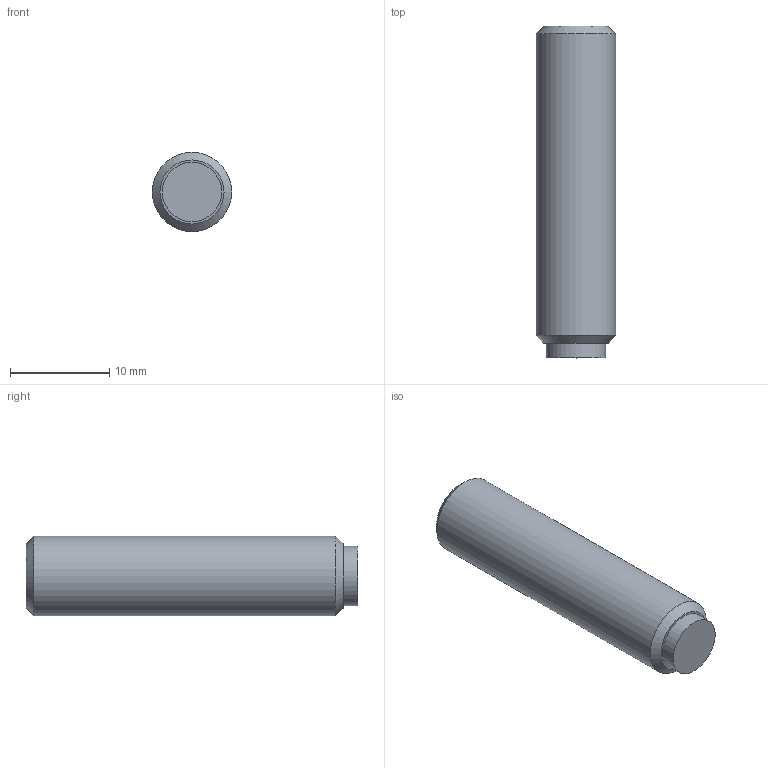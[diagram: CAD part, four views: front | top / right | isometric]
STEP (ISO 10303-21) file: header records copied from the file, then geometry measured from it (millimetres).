
FILE_DESCRIPTION( ( 'STEP AP203' ), '1' );
FILE_NAME( 'C:/Temp/Ganter_Step_05_03_2020/data/3_2/gn913_3/Grub screw GN 913.3-M8-32-MS.stp', '2020-03-13T05:35:50', ( 'License CC BY-ND 4.0' ), ( 'CADENAS' ), ' ', 'PARTsolutions', ' ' );
FILE_SCHEMA( ( 'CONFIG_CONTROL_DESIGN' ) );
Length unit declared in the file: millimetre
Products named in the file (1): _Grub screw GN 913.3-M8-32-MS
Bounding box: 8 x 33.5 x 8 mm (x, y, z)
Volume: 1567.8 mm3; surface area: 978.2 mm2
Topology: 1 solids, 1 shells, 14 faces, 28 edges, 18 vertices
Faces by surface type: plane 10, cylinder 2, cone 2
Full cylindrical faces by diameter (mm): 6 x1, 8 x1
Entity records: 386 total; most frequent: DIRECTION 60, CARTESIAN_POINT 57, ORIENTED_EDGE 48, EDGE_CURVE 24, AXIS2_PLACEMENT_3D 21, EDGE_LOOP 20, VERTEX_POINT 18, LINE 18
